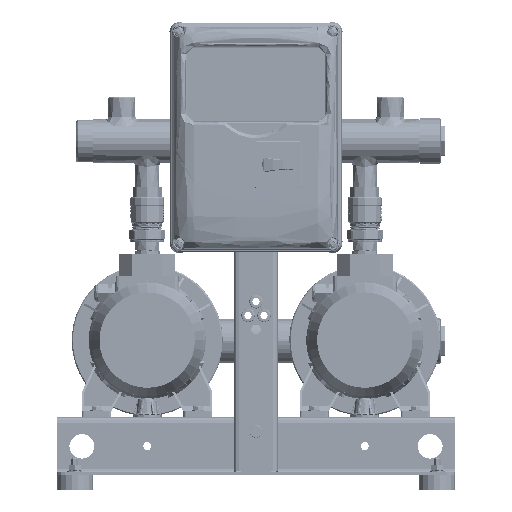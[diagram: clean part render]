
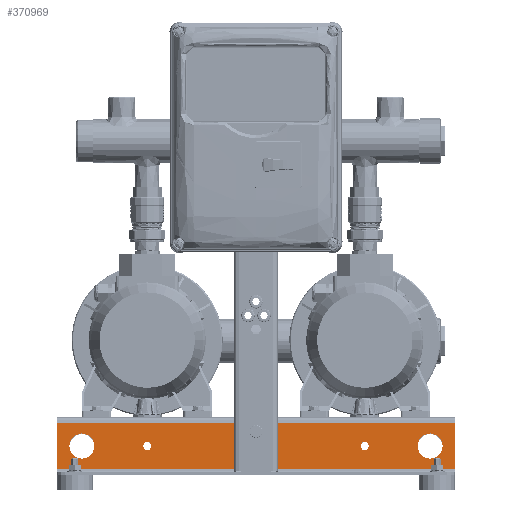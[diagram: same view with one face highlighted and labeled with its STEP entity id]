
A CAD part, top view. The second image highlights one B-rep face of the part: STEP entity #370969.
In plain terms, the highlighted planar face has unit normal (0, 0, 1) as drawn and (0, 0, -1) by its records, which use the part's own axes.
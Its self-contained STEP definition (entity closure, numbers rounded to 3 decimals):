
#364700=DIRECTION('',(1.,0.,0.));
#364701=VECTOR('',#364700,550.);
#364702=CARTESIAN_POINT('',(-275.,-8.,-150.));
#364703=LINE('',#364702,#364701);
#366930=DIRECTION('',(0.,1.,0.));
#366931=VECTOR('',#366930,64.);
#366932=CARTESIAN_POINT('',(-275.,-72.,-150.));
#366933=LINE('',#366932,#366931);
#366951=DIRECTION('',(1.,0.,0.));
#366952=VECTOR('',#366951,550.);
#366953=CARTESIAN_POINT('',(-275.,-72.,-150.));
#366954=LINE('',#366953,#366952);
#366981=DIRECTION('',(0.,1.,0.));
#366982=VECTOR('',#366981,26.);
#366983=CARTESIAN_POINT('',(-26.7,-40.,-150.));
#366984=LINE('',#366983,#366982);
#366988=DIRECTION('',(1.,0.,0.));
#366989=VECTOR('',#366988,3.6);
#366990=CARTESIAN_POINT('',(-30.3,-40.,-150.));
#366991=LINE('',#366990,#366989);
#366995=DIRECTION('',(0.,-1.,0.));
#366996=VECTOR('',#366995,26.);
#366997=CARTESIAN_POINT('',(-30.3,-14.,-150.));
#366998=LINE('',#366997,#366996);
#367002=DIRECTION('',(-1.,0.,0.));
#367003=VECTOR('',#367002,3.6);
#367004=CARTESIAN_POINT('',(-26.7,-14.,-150.));
#367005=LINE('',#367004,#367003);
#367009=DIRECTION('',(0.,1.,0.));
#367010=VECTOR('',#367009,26.);
#367011=CARTESIAN_POINT('',(30.3,-40.,-150.));
#367012=LINE('',#367011,#367010);
#367016=DIRECTION('',(1.,0.,0.));
#367017=VECTOR('',#367016,3.6);
#367018=CARTESIAN_POINT('',(26.7,-40.,-150.));
#367019=LINE('',#367018,#367017);
#367023=DIRECTION('',(0.,-1.,0.));
#367024=VECTOR('',#367023,26.);
#367025=CARTESIAN_POINT('',(26.7,-14.,-150.));
#367026=LINE('',#367025,#367024);
#367030=DIRECTION('',(-1.,0.,0.));
#367031=VECTOR('',#367030,3.6);
#367032=CARTESIAN_POINT('',(30.3,-14.,-150.));
#367033=LINE('',#367032,#367031);
#367037=CARTESIAN_POINT('',(0.,-20.,-150.));
#367038=DIRECTION('',(0.,0.,-1.));
#367039=DIRECTION('',(1.,0.,0.));
#367040=AXIS2_PLACEMENT_3D('',#367037,#367038,#367039);
#367045=CARTESIAN_POINT('',(0.,-20.,-150.));
#367046=DIRECTION('',(0.,0.,-1.));
#367047=DIRECTION('',(-1.,0.,0.));
#367048=AXIS2_PLACEMENT_3D('',#367045,#367046,#367047);
#367053=CARTESIAN_POINT('',(-240.,-40.,-150.));
#367054=DIRECTION('',(0.,0.,1.));
#367055=DIRECTION('',(-1.,0.,0.));
#367056=AXIS2_PLACEMENT_3D('',#367053,#367054,#367055);
#367061=CARTESIAN_POINT('',(-240.,-40.,-150.));
#367062=DIRECTION('',(0.,0.,1.));
#367063=DIRECTION('',(1.,0.,0.));
#367064=AXIS2_PLACEMENT_3D('',#367061,#367062,#367063);
#367069=CARTESIAN_POINT('',(240.,-40.,-150.));
#367070=DIRECTION('',(0.,0.,1.));
#367071=DIRECTION('',(-1.,0.,0.));
#367072=AXIS2_PLACEMENT_3D('',#367069,#367070,#367071);
#367077=CARTESIAN_POINT('',(240.,-40.,-150.));
#367078=DIRECTION('',(0.,0.,1.));
#367079=DIRECTION('',(1.,0.,0.));
#367080=AXIS2_PLACEMENT_3D('',#367077,#367078,#367079);
#367085=CARTESIAN_POINT('',(-150.,-40.,-150.));
#367086=DIRECTION('',(0.,0.,1.));
#367087=DIRECTION('',(1.,0.,0.));
#367088=AXIS2_PLACEMENT_3D('',#367085,#367086,#367087);
#367093=CARTESIAN_POINT('',(-150.,-40.,-150.));
#367094=DIRECTION('',(0.,0.,1.));
#367095=DIRECTION('',(-1.,0.,0.));
#367096=AXIS2_PLACEMENT_3D('',#367093,#367094,#367095);
#367101=CARTESIAN_POINT('',(150.,-40.,-150.));
#367102=DIRECTION('',(0.,0.,-1.));
#367103=DIRECTION('',(-1.,0.,0.));
#367104=AXIS2_PLACEMENT_3D('',#367101,#367102,#367103);
#367109=CARTESIAN_POINT('',(150.,-40.,-150.));
#367110=DIRECTION('',(0.,0.,-1.));
#367111=DIRECTION('',(1.,0.,0.));
#367112=AXIS2_PLACEMENT_3D('',#367109,#367110,#367111);
#367131=DIRECTION('',(0.,1.,0.));
#367132=VECTOR('',#367131,64.);
#367133=CARTESIAN_POINT('',(275.,-72.,-150.));
#367134=LINE('',#367133,#367132);
#368696=CARTESIAN_POINT('',(-275.,-72.,-150.));
#368697=CARTESIAN_POINT('',(-275.,-8.,-150.));
#368698=VERTEX_POINT('',#368696);
#368699=VERTEX_POINT('',#368697);
#368700=CARTESIAN_POINT('',(275.,-72.,-150.));
#368701=CARTESIAN_POINT('',(275.,-8.,-150.));
#368702=VERTEX_POINT('',#368700);
#368703=VERTEX_POINT('',#368701);
#369056=CARTESIAN_POINT('',(-26.7,-40.,-150.));
#369057=CARTESIAN_POINT('',(-26.7,-14.,-150.));
#369058=VERTEX_POINT('',#369056);
#369059=VERTEX_POINT('',#369057);
#369060=CARTESIAN_POINT('',(-30.3,-14.,-150.));
#369061=VERTEX_POINT('',#369060);
#369062=CARTESIAN_POINT('',(-30.3,-40.,-150.));
#369063=VERTEX_POINT('',#369062);
#369064=CARTESIAN_POINT('',(30.3,-40.,-150.));
#369065=CARTESIAN_POINT('',(30.3,-14.,-150.));
#369066=VERTEX_POINT('',#369064);
#369067=VERTEX_POINT('',#369065);
#369068=CARTESIAN_POINT('',(26.7,-14.,-150.));
#369069=VERTEX_POINT('',#369068);
#369070=CARTESIAN_POINT('',(26.7,-40.,-150.));
#369071=VERTEX_POINT('',#369070);
#369088=CARTESIAN_POINT('',(6.25,-20.,-150.));
#369089=CARTESIAN_POINT('',(-6.25,-20.,-150.));
#369090=VERTEX_POINT('',#369088);
#369091=VERTEX_POINT('',#369089);
#369112=CARTESIAN_POINT('',(-257.5,-40.,-150.));
#369113=CARTESIAN_POINT('',(-222.5,-40.,-150.));
#369114=VERTEX_POINT('',#369112);
#369115=VERTEX_POINT('',#369113);
#369116=CARTESIAN_POINT('',(222.5,-40.,-150.));
#369117=CARTESIAN_POINT('',(257.5,-40.,-150.));
#369118=VERTEX_POINT('',#369116);
#369119=VERTEX_POINT('',#369117);
#369212=CARTESIAN_POINT('',(-143.75,-40.,-150.));
#369213=CARTESIAN_POINT('',(-156.25,-40.,-150.));
#369214=VERTEX_POINT('',#369212);
#369215=VERTEX_POINT('',#369213);
#369224=CARTESIAN_POINT('',(143.75,-40.,-150.));
#369226=VERTEX_POINT('',#369224);
#369232=CARTESIAN_POINT('',(156.25,-40.,-150.));
#369234=VERTEX_POINT('',#369232);
#370907=CARTESIAN_POINT('',(-275.,-76.,-150.));
#370908=DIRECTION('',(0.,0.,-1.));
#370909=DIRECTION('',(0.,1.,0.));
#370910=AXIS2_PLACEMENT_3D('',#370907,#370908,#370909);
#370911=PLANE('',#370910);
#370912=ORIENTED_EDGE('',*,*,#370860,.F.);
#370913=ORIENTED_EDGE('',*,*,#370897,.T.);
#370915=ORIENTED_EDGE('',*,*,#370914,.T.);
#370916=ORIENTED_EDGE('',*,*,#369968,.F.);
#370917=EDGE_LOOP('',(#370912,#370913,#370915,#370916));
#370918=FACE_OUTER_BOUND('',#370917,.F.);
#370920=ORIENTED_EDGE('',*,*,#370919,.F.);
#370922=ORIENTED_EDGE('',*,*,#370921,.F.);
#370924=ORIENTED_EDGE('',*,*,#370923,.F.);
#370926=ORIENTED_EDGE('',*,*,#370925,.F.);
#370927=EDGE_LOOP('',(#370920,#370922,#370924,#370926));
#370928=FACE_BOUND('',#370927,.F.);
#370930=ORIENTED_EDGE('',*,*,#370929,.F.);
#370932=ORIENTED_EDGE('',*,*,#370931,.F.);
#370934=ORIENTED_EDGE('',*,*,#370933,.F.);
#370936=ORIENTED_EDGE('',*,*,#370935,.F.);
#370937=EDGE_LOOP('',(#370930,#370932,#370934,#370936));
#370938=FACE_BOUND('',#370937,.F.);
#370940=ORIENTED_EDGE('',*,*,#370939,.T.);
#370942=ORIENTED_EDGE('',*,*,#370941,.T.);
#370943=EDGE_LOOP('',(#370940,#370942));
#370944=FACE_BOUND('',#370943,.F.);
#370946=ORIENTED_EDGE('',*,*,#370945,.F.);
#370948=ORIENTED_EDGE('',*,*,#370947,.F.);
#370949=EDGE_LOOP('',(#370946,#370948));
#370950=FACE_BOUND('',#370949,.F.);
#370952=ORIENTED_EDGE('',*,*,#370951,.F.);
#370954=ORIENTED_EDGE('',*,*,#370953,.F.);
#370955=EDGE_LOOP('',(#370952,#370954));
#370956=FACE_BOUND('',#370955,.F.);
#370958=ORIENTED_EDGE('',*,*,#370957,.F.);
#370960=ORIENTED_EDGE('',*,*,#370959,.F.);
#370961=EDGE_LOOP('',(#370958,#370960));
#370962=FACE_BOUND('',#370961,.F.);
#370964=ORIENTED_EDGE('',*,*,#370963,.T.);
#370966=ORIENTED_EDGE('',*,*,#370965,.T.);
#370967=EDGE_LOOP('',(#370964,#370966));
#370968=FACE_BOUND('',#370967,.F.);
#367041=CIRCLE('',#367040,6.25);
#367049=CIRCLE('',#367048,6.25);
#367057=CIRCLE('',#367056,17.5);
#367065=CIRCLE('',#367064,17.5);
#367073=CIRCLE('',#367072,17.5);
#367081=CIRCLE('',#367080,17.5);
#367089=CIRCLE('',#367088,6.25);
#367097=CIRCLE('',#367096,6.25);
#367105=CIRCLE('',#367104,6.25);
#367113=CIRCLE('',#367112,6.25);
#369968=EDGE_CURVE('',#368699,#368703,#364703,.T.);
#370860=EDGE_CURVE('',#368698,#368699,#366933,.T.);
#370897=EDGE_CURVE('',#368698,#368702,#366954,.T.);
#370914=EDGE_CURVE('',#368702,#368703,#367134,.T.);
#370919=EDGE_CURVE('',#369058,#369059,#366984,.T.);
#370921=EDGE_CURVE('',#369063,#369058,#366991,.T.);
#370923=EDGE_CURVE('',#369061,#369063,#366998,.T.);
#370925=EDGE_CURVE('',#369059,#369061,#367005,.T.);
#370929=EDGE_CURVE('',#369066,#369067,#367012,.T.);
#370931=EDGE_CURVE('',#369071,#369066,#367019,.T.);
#370933=EDGE_CURVE('',#369069,#369071,#367026,.T.);
#370935=EDGE_CURVE('',#369067,#369069,#367033,.T.);
#370939=EDGE_CURVE('',#369090,#369091,#367041,.T.);
#370941=EDGE_CURVE('',#369091,#369090,#367049,.T.);
#370945=EDGE_CURVE('',#369114,#369115,#367057,.T.);
#370947=EDGE_CURVE('',#369115,#369114,#367065,.T.);
#370951=EDGE_CURVE('',#369118,#369119,#367073,.T.);
#370953=EDGE_CURVE('',#369119,#369118,#367081,.T.);
#370957=EDGE_CURVE('',#369214,#369215,#367089,.T.);
#370959=EDGE_CURVE('',#369215,#369214,#367097,.T.);
#370963=EDGE_CURVE('',#369226,#369234,#367105,.T.);
#370965=EDGE_CURVE('',#369234,#369226,#367113,.T.);
#370969=ADVANCED_FACE('',(#370918,#370928,#370938,#370944,#370950,#370956,
#370962,#370968),#370911,.T.);
